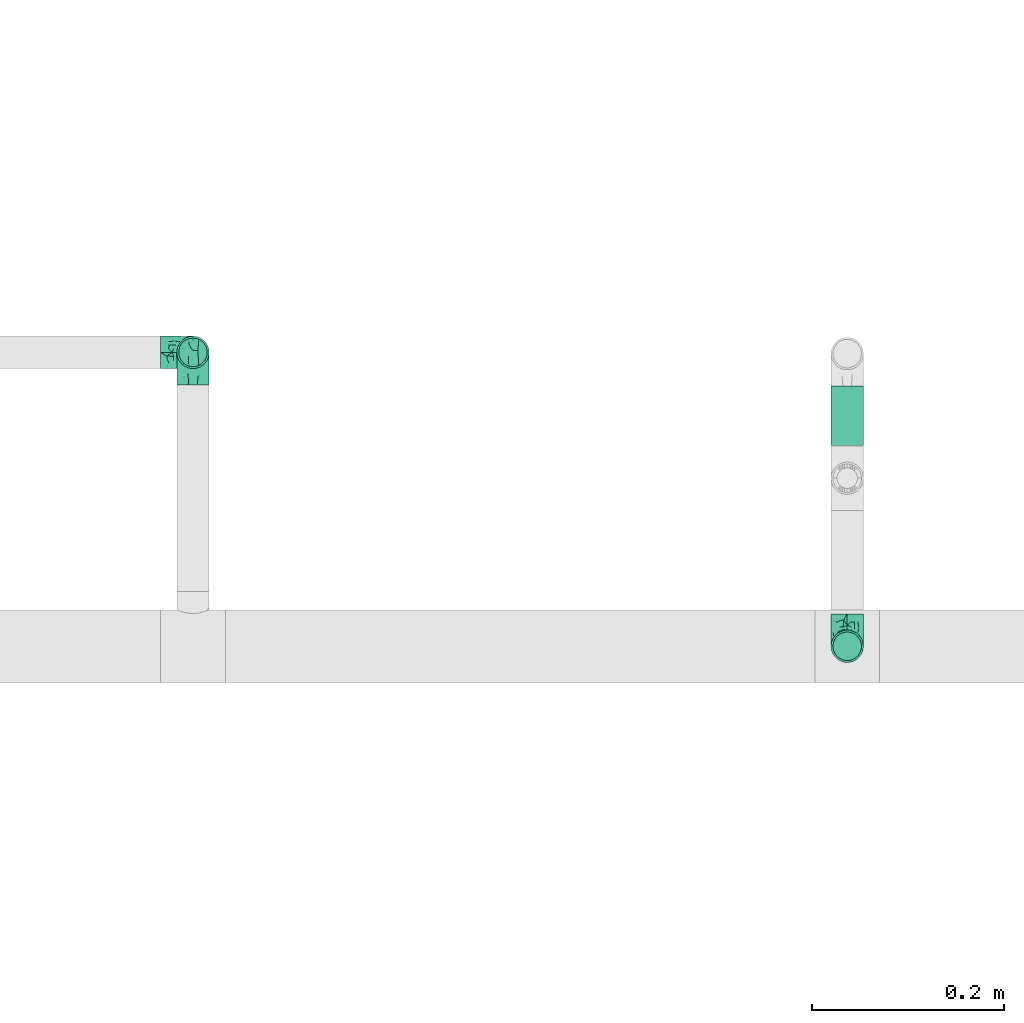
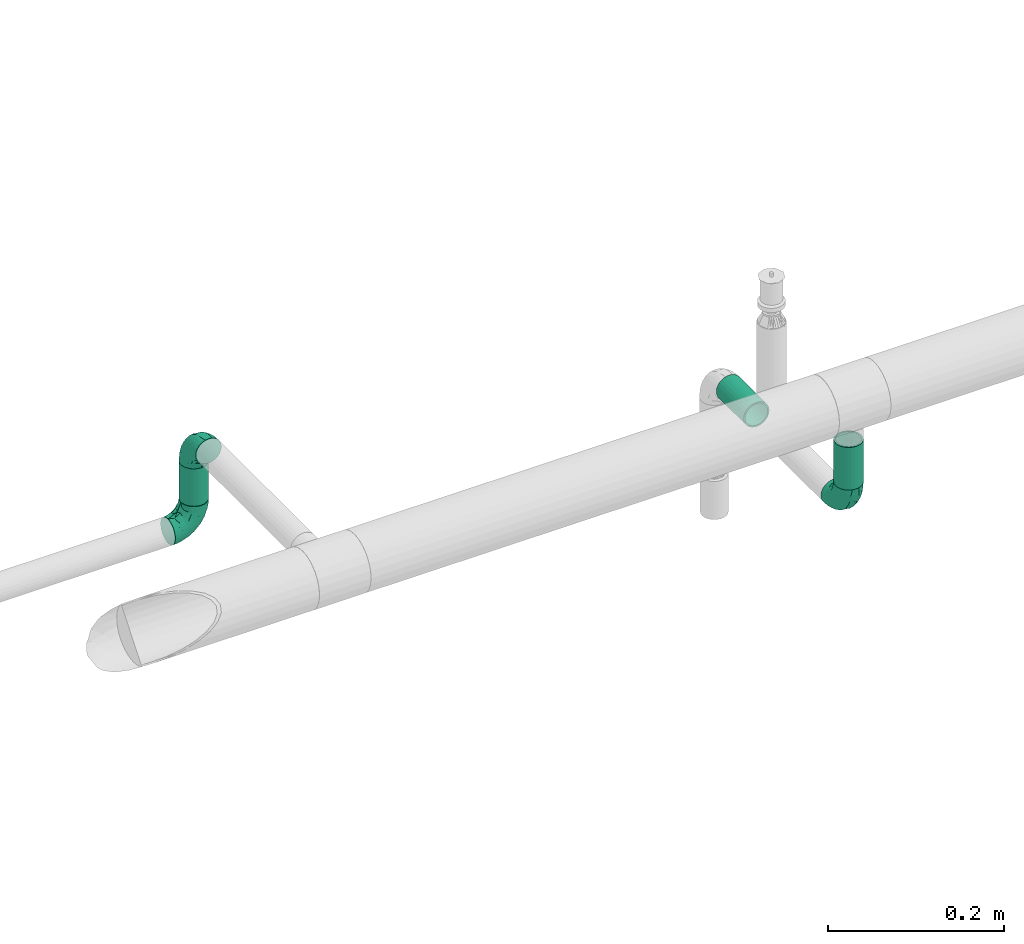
# One storey, part 86 of 157: 3 flow fittings, 3 flow segments.
"""IFC2X3 building model written with IfcOpenShell, lengths in millimetres."""

from ifc_helpers import new_model, entity, si_unit, converted_unit, derived_unit, direction, frame, origin_with_axes, origin_2d_with_axis, place, context, subcontext, project, spatial, hollow_circle, extrude, open_shell, surface_model, source, transform, mapped, type_object, element, save


model = new_model("IFC2X3")

# Units and contexts
model_context = context("Model", 3, precision=0.01, world=frame((0.0, 4.29681676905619e-09, 0.0)), true_north=direction((4.01073788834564e-13, 1.0)))
plan_context = context("Plan", 3, precision=0.01, world=frame((0.0, 4.29681676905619e-09, 0.0)), true_north=direction((4.01073788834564e-13, 1.0)))
body_context = subcontext(model_context, "Body", "Model", "MODEL_VIEW")
ifc_project = project(units=[converted_unit("PLANEANGLEUNIT", "DEGREE", entity("IfcPositiveLengthMeasure", 0.0174532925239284), si_unit("PLANEANGLEUNIT", "RADIAN"), dimensions=[0, 0, 0, 0, 0, 0, 0]), si_unit("AREAUNIT", "SQUARE_METRE"), si_unit("LENGTHUNIT", "METRE", prefix="MILLI"), si_unit("MASSUNIT", "GRAM", prefix="KILO"), si_unit("POWERUNIT", "WATT"), si_unit("PRESSUREUNIT", "PASCAL"), si_unit("FORCEUNIT", "NEWTON", prefix="KILO"), si_unit("ELECTRICCURRENTUNIT", "AMPERE"), si_unit("THERMODYNAMICTEMPERATUREUNIT", "DEGREE_CELSIUS"), si_unit("TIMEUNIT", "SECOND"), si_unit("VOLUMEUNIT", "CUBIC_METRE"), derived_unit("LINEARVELOCITYUNIT", [(si_unit("LENGTHUNIT", "METRE"), 1), (si_unit("TIMEUNIT", "SECOND"), -1)]), derived_unit("VOLUMETRICFLOWRATEUNIT", [(si_unit("VOLUMEUNIT", "CUBIC_METRE"), 1), (si_unit("TIMEUNIT", "SECOND"), -1)]), derived_unit("THERMALTRANSMITTANCEUNIT", [(si_unit("POWERUNIT", "WATT"), 1), (si_unit("THERMODYNAMICTEMPERATUREUNIT", "KELVIN"), -1), (si_unit("AREAUNIT", "SQUARE_METRE"), -1)])], contexts=[model_context, plan_context])

# Site, building, storey
site_placement = place(None, frame((0.0, -4.29681676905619e-09, 0.0), z_axis=(0.0, 0.0, 1.0), x_axis=(1.0, 0.0, 0.0)))
site = spatial("IfcSite", under=ifc_project, at=site_placement, CompositionType="ELEMENT")
building_placement = place(site_placement, frame((0.0, 4.29681676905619e-09, 0.0), z_axis=(0.0, 0.0, 1.0), x_axis=(1.0, 0.0, 0.0)))
building = spatial("IfcBuilding", under=site, at=building_placement, Name="mc-building", CompositionType="ELEMENT")
storey_placement = place(building_placement, frame((0.0, 0.0, 204000.0), z_axis=(0.0, 0.0, 1.0), x_axis=(1.0, 0.0, 0.0)))
storey = spatial("IfcBuildingStorey", under=building, at=storey_placement, Name="Nivå D", CompositionType="ELEMENT", Elevation=204000.0)

# Flow fittings
pipe_fitting_type = type_object("IfcPipeFittingType", Name="magi_pipe_fe_elbow_short_001", PredefinedType="BEND")
shared_shape_1 = source(origin_with_axes(), body_context, "Body", "SurfaceModel", [
    surface_model("IfcShellBasedSurfaceModel", [(-33.8, 8.45, -14.63583), (-33.8, 4.37404, -16.32415), (-33.8, 11.9501, -11.9501), (-33.8, -11.9501, -11.9501), (-33.8, -14.63583, -8.45), (-33.8, -8.45, -14.63583), (-33.8, 0.0, -16.9), (-33.8, -4.37404, -16.32415), (-33.8, -4.37404, 16.32415), (-33.8, 0.0, 16.9), (-33.8, -8.45, 14.63583), (-33.8, 16.32415, -4.37404), (-33.8, 14.63583, -8.45), (-33.8, -16.32415, -4.37404), (-33.8, -16.9, 0.0), (-33.8, -16.32415, 4.37404), (-33.8, 11.9501, 11.9501), (-33.8, 14.63583, 8.45), (-33.8, 16.32415, 4.37404), (-33.8, 4.37404, 16.32415), (-33.8, 8.45, 14.63583), (-33.8, -14.63583, 8.45), (-33.8, -11.9501, 11.9501), (-33.8, 16.9, 0.0), (-11.9501, 33.8, -11.9501), (0.0, 33.8, -16.9), (-4.37404, 33.8, -16.32415), (-8.45, 33.8, -14.63583), (-14.63583, 33.8, -8.45), (-16.32415, 33.8, -4.37404), (14.63583, 33.8, -8.45), (8.45, 33.8, 14.63583), (16.32415, 33.8, -4.37404), (8.45, 33.8, -14.63583), (11.9501, 33.8, -11.9501), (4.37404, 33.8, -16.32415), (16.32415, 33.8, 4.37404), (16.9, 33.8, 0.0), (-11.9501, 33.8, 11.9501), (-16.32415, 33.8, 4.37404), (-14.63583, 33.8, 8.45), (-8.45, 33.8, 14.63583), (-4.37404, 33.8, 16.32415), (11.9501, 33.8, 11.9501), (14.63583, 33.8, 8.45), (0.0, 33.8, 16.9), (4.37404, 33.8, 16.32415), (-16.9, 33.8, 0.0), (-24.79389, -13.12945, 9.48721), (-22.19287, -9.75018, 12.59315), (-24.09897, -14.97035, 0.0), (-14.93934, -10.76256, 8.5297), (-22.46095, -14.75051, 5.27077), (14.75051, 22.46094, 5.27077), (11.9251, 13.23888, 4.33236), (13.04069, 14.39795, 0.0), (7.71387, 13.68847, 11.55891), (9.75018, 22.19287, 12.59315), (4.10169, 13.0571, 14.04018), (-24.84007, -6.39063, 15.2048), (-25.81779, -2.23879, 16.61097), (-23.66549, 2.59054, 16.87119), (-26.50418, 14.06512, 11.08152), (-24.21253, 17.66365, 7.72657), (-29.58514, 15.86957, 7.00283), (-6.17382, -7.5455, 0.0), (-13.23888, -11.9251, 4.33236), (-14.39795, -13.04069, 0.0), (-17.81434, 18.87373, 11.97104), (-6.30846, 29.15138, 15.82987), (-2.31622, 25.28002, 16.85849), (-29.23923, 10.23435, 13.77053), (-1.45439, -2.85688, 7.61475), (-0.28326, 0.34872, 10.09509), (-5.74484, -4.04709, 10.4122), (-4.41137, 11.31918, 16.59407), (-8.39727, 3.10034, 15.7812), (-1.72649, 9.1306, 15.53089), (-17.39909, 24.75344, 7.64977), (-26.19233, 20.0512, 0.0), (-28.14518, 17.29657, 4.25857), (-26.05147, 6.6281, 15.96447), (-5.87354, 16.61944, 16.86968), (-12.51807, 12.51807, 16.48937), (-10.06312, 7.38516, 16.81295), (-3.01882, 3.01882, 13.81718), (-13.0571, -4.10169, 14.04018), (-16.82553, -0.15166, 16.38038), (10.76256, 14.93934, 8.5297), (13.12945, 24.79389, 9.48721), (6.39063, 24.84007, 15.2048), (2.23879, 25.81779, 16.61097), (-13.68847, -7.71387, 11.55891), (14.97035, 24.09897, 0.0), (-7.30894, 22.89991, 16.09489), (-10.67958, 26.17414, 14.008), (-12.78295, 18.26924, 15.06066), (-13.88562, 22.45231, 12.93244), (-18.04944, 15.16501, 14.04434), (-23.11658, 20.08178, 4.02986), (-21.84989, 21.84989, 0.0), (-18.55817, 25.48277, 3.93065), (-13.95142, 26.94732, 11.03289), (-18.57098, 7.23906, 16.59756), (-16.58335, 4.14122, 16.89279), (-17.96666, 11.46709, 15.63151), (-9.84453, 17.54304, 16.18938), (0.15166, 16.82553, 16.38038), (-23.27207, 11.47201, 14.23154), (3.84842, 5.86994, 10.70473), (-8.0212, -7.54413, 7.93275), (1.00345, -2.19508, 4.57414), (5.13203, 3.01004, 5.90201), (5.24161, 1.7543, 2.53265), (8.70457, 7.04947, 3.99182), (-20.0512, 26.19233, 0.0), (8.4852, 8.76699, 7.09296), (-4.55488, -6.72064, 4.90681), (2.05031, -2.05031, 0.0), (7.5455, 6.17382, 0.0), (-26.75399, 2.1369, -16.845), (-14.61995, 24.73803, -11.27736), (-28.45274, -13.45335, -9.81895), (-26.00469, 6.63555, -15.96645), (-23.06726, 20.04573, -4.26202), (-13.80647, -4.26506, -14.17873), (-14.67501, -0.21081, -16.07388), (-6.7902, -0.2828, -13.8478), (-24.53586, 11.08096, -14.13417), (-26.72048, 14.00837, -11.05776), (10.0967, 24.44989, -12.75976), (5.83237, 21.40218, -15.03047), (6.66249, 28.54238, -15.38093), (-20.38182, 15.48705, -12.74596), (12.53268, 21.23441, -9.15363), (12.54494, 15.67504, -5.54878), (9.7522, 12.89279, -8.66343), (-15.65186, 19.64213, -13.01327), (-12.03528, 20.66498, -14.67665), (-15.61907, 15.61906, -14.83879), (-25.56551, -15.26206, 0.0), (-24.65452, -15.12934, -5.50955), (13.45335, 28.45274, -9.81895), (15.12934, 24.65452, -5.50955), (-7.35442, -8.31014, -5.65563), (-15.67504, -12.54494, -5.54878), (-24.44989, -10.0967, -12.75976), (0.16522, 0.41303, -9.71728), (-5.70658, -5.33066, -8.89288), (-5.13869, -2.37198, -11.53565), (-21.23441, -12.53268, -9.15363), (0.71146, 7.93863, -14.09382), (0.21081, 14.67501, -16.07388), (3.49291, 14.42772, -14.76381), (-24.89911, -2.13088, -16.591), (-28.54238, -6.66249, -15.38093), (-18.44386, -7.71663, -13.26957), (2.13088, 24.89911, -16.591), (-28.64342, 17.44413, -2.89318), (1.70017, -1.28722, -5.09504), (-16.57067, 26.81947, -7.36596), (-17.69055, 27.4263, -3.76405), (-12.89279, -9.7522, -8.66343), (-5.96611, 5.96611, -15.95814), (-20.53709, 20.09345, -8.28985), (-2.1369, 26.75399, -16.845), (-6.89872, 24.58781, -16.02578), (-10.60739, 26.53157, -13.98044), (-21.40218, -5.83237, -15.03047), (2.93192, 5.89627, -11.55917), (6.89393, 12.61842, -11.82233), (5.58056, 5.95325, -8.79455), (-3.99512, 18.61798, -16.89635), (8.31014, 7.35442, -5.65563), (-9.1383, 9.86148, -16.89041), (-9.99983, 16.02119, -16.39699), (-16.68576, 9.78031, -16.34199), (-27.01915, 16.61158, -7.12979), (15.26206, 25.56551, 0.0), (-18.61798, 3.99512, -16.89635), (-19.37495, 27.82495, 0.0), (-12.61842, -6.89393, -11.82233), (-18.84705, 19.14018, -10.96545)], [open_shell([[[0, 1, 2]], [[3, 4, 5]], [[6, 7, 5]], [[8, 9, 10]], [[1, 6, 2]], [[11, 12, 2]], [[4, 2, 6]], [[2, 13, 10]], [[5, 4, 6]], [[2, 4, 13]], [[14, 15, 13]], [[11, 2, 16]], [[11, 17, 18]], [[11, 16, 17]], [[19, 20, 16]], [[16, 2, 10]], [[19, 16, 10]], [[21, 22, 15]], [[22, 13, 15]], [[22, 10, 13]], [[10, 9, 19]], [[11, 18, 23]], [[24, 25, 26]], [[24, 26, 27]], [[24, 28, 29]], [[25, 24, 30]], [[31, 32, 24]], [[33, 30, 34]], [[33, 35, 25]], [[25, 30, 33]], [[32, 30, 24]], [[32, 36, 37]], [[38, 24, 29]], [[39, 40, 29]], [[40, 38, 29]], [[38, 41, 42]], [[38, 31, 24]], [[31, 38, 42]], [[36, 43, 44]], [[36, 32, 43]], [[31, 45, 46]], [[32, 31, 43]], [[42, 45, 31]], [[39, 29, 47]], [[22, 48, 49]], [[15, 14, 50]], [[51, 48, 52]], [[53, 54, 55]], [[48, 22, 21]], [[15, 52, 21]], [[56, 57, 58]], [[49, 10, 22]], [[49, 59, 10]], [[9, 60, 61]], [[62, 63, 64]], [[65, 66, 67]], [[57, 43, 31]], [[62, 68, 63]], [[42, 69, 70]], [[20, 71, 16]], [[8, 60, 9]], [[72, 73, 74]], [[75, 76, 77]], [[16, 62, 17]], [[40, 39, 78]], [[79, 23, 80]], [[64, 18, 17]], [[9, 61, 19]], [[19, 81, 20]], [[82, 83, 84]], [[74, 85, 86]], [[59, 86, 87]], [[88, 89, 57]], [[90, 31, 46]], [[44, 53, 36]], [[46, 45, 91]], [[54, 53, 88]], [[44, 89, 53]], [[92, 86, 49]], [[89, 44, 43]], [[10, 59, 8]], [[53, 55, 93]], [[93, 36, 53]], [[66, 52, 67]], [[94, 82, 70]], [[95, 96, 94]], [[97, 98, 96]], [[79, 99, 100]], [[41, 38, 95]], [[101, 100, 99]], [[68, 78, 63]], [[42, 41, 69]], [[23, 18, 80]], [[95, 94, 69]], [[78, 101, 99]], [[38, 102, 95]], [[70, 45, 42]], [[97, 95, 102]], [[15, 50, 52]], [[90, 57, 31]], [[57, 90, 58]], [[81, 19, 61]], [[103, 104, 84]], [[105, 81, 103]], [[38, 40, 102]], [[106, 96, 83]], [[94, 106, 82]], [[91, 70, 107]], [[71, 62, 16]], [[62, 108, 98]], [[86, 59, 49]], [[67, 52, 50]], [[60, 59, 87]], [[92, 49, 51]], [[86, 85, 76]], [[91, 90, 46]], [[37, 36, 93]], [[107, 77, 58]], [[107, 58, 90]], [[58, 85, 109]], [[110, 74, 92]], [[72, 74, 110]], [[66, 51, 52]], [[72, 111, 112]], [[113, 114, 112]], [[56, 88, 57]], [[52, 48, 21]], [[49, 48, 51]], [[57, 89, 43]], [[53, 89, 88]], [[103, 81, 61]], [[71, 81, 108]], [[18, 64, 80]], [[63, 78, 99]], [[47, 115, 101]], [[101, 115, 100]], [[40, 78, 102]], [[68, 102, 78]], [[97, 96, 95]], [[105, 98, 108]], [[103, 84, 83]], [[107, 70, 82]], [[76, 84, 87]], [[82, 84, 75]], [[70, 91, 45]], [[90, 91, 107]], [[59, 60, 8]], [[61, 60, 87]], [[73, 85, 74]], [[109, 112, 116]], [[103, 61, 104]], [[105, 103, 83]], [[96, 105, 83]], [[81, 105, 108]], [[96, 98, 105]], [[62, 98, 68]], [[61, 87, 104]], [[87, 84, 104]], [[86, 76, 87]], [[77, 76, 85]], [[58, 77, 85]], [[75, 77, 107]], [[82, 75, 107]], [[76, 75, 84]], [[81, 71, 20]], [[62, 71, 108]], [[95, 69, 41]], [[70, 69, 94]], [[62, 64, 17]], [[80, 63, 99]], [[63, 80, 64]], [[80, 99, 79]], [[66, 65, 117]], [[110, 66, 117]], [[112, 114, 116]], [[118, 117, 65]], [[110, 92, 51]], [[112, 111, 113]], [[119, 55, 54]], [[74, 86, 92]], [[58, 109, 56]], [[116, 56, 109]], [[66, 110, 51]], [[72, 110, 117]], [[111, 72, 117]], [[73, 112, 109]], [[117, 118, 111]], [[113, 111, 118]], [[118, 119, 113]], [[114, 119, 54]], [[119, 114, 113]], [[116, 54, 88]], [[54, 116, 114]], [[116, 88, 56]], [[112, 73, 72]], [[85, 73, 109]], [[78, 39, 101]], [[47, 101, 39]], [[102, 68, 97]], [[97, 68, 98]], [[82, 106, 83]], [[94, 96, 106]], [[1, 120, 6]], [[28, 24, 121]], [[3, 122, 4]], [[0, 123, 1]], [[100, 124, 79]], [[125, 126, 127]], [[128, 2, 129]], [[130, 131, 132]], [[128, 129, 133]], [[134, 135, 136]], [[137, 138, 139]], [[128, 0, 2]], [[67, 140, 141]], [[134, 142, 143]], [[141, 13, 4]], [[144, 65, 145]], [[146, 3, 5]], [[147, 148, 149]], [[145, 141, 150]], [[151, 152, 153]], [[154, 7, 6]], [[5, 155, 146]], [[150, 146, 156]], [[155, 5, 7]], [[143, 135, 134]], [[35, 157, 25]], [[23, 79, 158]], [[148, 159, 144]], [[160, 161, 29]], [[145, 162, 144]], [[163, 152, 151]], [[29, 28, 160]], [[121, 164, 160]], [[33, 34, 130]], [[25, 165, 26]], [[26, 165, 166]], [[142, 34, 30]], [[24, 27, 167]], [[124, 161, 164]], [[157, 35, 132]], [[155, 154, 168]], [[123, 0, 128]], [[169, 170, 171]], [[172, 157, 152]], [[26, 166, 27]], [[132, 35, 33]], [[142, 130, 34]], [[168, 154, 126]], [[136, 135, 173]], [[133, 137, 139]], [[2, 12, 129]], [[170, 131, 130]], [[30, 32, 143]], [[172, 174, 175]], [[176, 123, 128]], [[158, 177, 11]], [[135, 55, 119]], [[167, 27, 166]], [[175, 166, 172]], [[137, 167, 138]], [[122, 141, 4]], [[140, 14, 13]], [[32, 37, 178]], [[170, 130, 134]], [[152, 157, 131]], [[165, 157, 172]], [[153, 170, 151]], [[152, 163, 174]], [[168, 125, 156]], [[122, 146, 150]], [[120, 154, 6]], [[179, 174, 126]], [[179, 126, 154]], [[126, 163, 127]], [[162, 145, 150]], [[140, 13, 141]], [[32, 178, 143]], [[55, 143, 178]], [[177, 129, 12]], [[128, 133, 139]], [[176, 128, 139]], [[120, 123, 179]], [[121, 160, 28]], [[161, 100, 180]], [[166, 175, 138]], [[121, 24, 167]], [[161, 47, 29]], [[79, 124, 158]], [[124, 164, 177]], [[161, 124, 100]], [[136, 171, 170]], [[127, 163, 151]], [[147, 171, 159]], [[148, 144, 162]], [[127, 151, 169]], [[127, 181, 125]], [[129, 177, 164]], [[12, 11, 177]], [[159, 65, 144]], [[67, 141, 145]], [[143, 55, 135]], [[135, 119, 173]], [[123, 120, 1]], [[154, 120, 179]], [[157, 165, 25]], [[166, 165, 172]], [[172, 152, 174]], [[176, 139, 175]], [[126, 174, 163]], [[176, 174, 179]], [[174, 176, 175]], [[123, 176, 179]], [[150, 181, 162]], [[127, 149, 181]], [[181, 148, 162]], [[159, 148, 147]], [[171, 136, 173]], [[170, 134, 136]], [[159, 171, 173]], [[171, 147, 169]], [[169, 147, 149]], [[151, 170, 169]], [[164, 182, 129]], [[182, 121, 137]], [[181, 149, 148]], [[169, 149, 127]], [[182, 137, 133]], [[167, 137, 121]], [[166, 138, 167]], [[175, 139, 138]], [[129, 182, 133]], [[121, 182, 164]], [[161, 160, 164]], [[47, 161, 180]], [[177, 158, 124]], [[23, 158, 11]], [[130, 132, 33]], [[157, 132, 131]], [[143, 142, 30]], [[130, 142, 134]], [[154, 155, 7]], [[146, 155, 168]], [[146, 122, 3]], [[141, 122, 150]], [[152, 131, 153]], [[159, 119, 118]], [[67, 145, 65]], [[170, 153, 131]], [[119, 159, 173]], [[159, 118, 65]], [[156, 125, 181]], [[126, 125, 168]], [[150, 156, 181]], [[168, 156, 146]]])]),
])
for number, where, z_axis, x_axis, name in (
    (1, (521500.0, 416294.70476, 2540.0), (1.0, 0.0, 0.0), (0.0, 0.0, -1.0), "magi_pipe_fe_elbow_short_001"),
    (2, (520817.55946, 416601.26648, 2690.0), (-1.0, 0.0, 0.0), (0.0, 1.0, 0.0), "magi_pipe_fe_elbow_short_001"),
    (3, (520817.55946, 416601.26648, 2570.0), (0.0, 1.0, 0.0), (0.0, 0.0, -1.0), "magi_pipe_fe_elbow_short_001"),
):
    element("IfcFlowFitting", number, at=place(storey_placement, frame(where, z_axis=z_axis, x_axis=x_axis)), inside=storey, type_object=pipe_fitting_type, Name=name, context=body_context, shape_type="MappedRepresentation", body=[
        mapped(shared_shape_1, transform((0.0, 0.0, 0.0), scale=1.0)),
    ])

# Flow segments
pipe_segment_type = type_object("IfcPipeSegmentType", Name="Stålrør normaltykke", PredefinedType="RIGIDSEGMENT")
shared_shape_2 = source(origin_with_axes(), body_context, "Body", "SweptSolid", [
    extrude(hollow_circle(Radius=16.9, WallThickness=2.0, at=origin_2d_with_axis()), frame((0.0, 0.0, 0.0), z_axis=(1.0, 0.0, 0.0), x_axis=(0.0, 1.0, 0.0)), (0.0, 0.0, 1.0), 51.8),
])
flow_segment_1_placement = place(storey_placement, frame((520817.55946, 416601.26648, 2656.20000000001), z_axis=(-1.0, 0.0, 0.0), x_axis=(0.0, 0.0, -1.0)))
element("IfcFlowSegment", 4, at=flow_segment_1_placement, inside=storey, type_object=pipe_segment_type, Name="Stålrør normaltykke", context=body_context, shape_type="MappedRepresentation", body=[
    mapped(shared_shape_2, transform((0.0, 0.0, 0.0), scale=1.0)),
])
shared_shape_3 = source(origin_with_axes(), body_context, "Body", "SweptSolid", [
    extrude(hollow_circle(Radius=16.9, WallThickness=2.0, at=origin_2d_with_axis()), frame((0.0, 0.0, 0.0), z_axis=(1.0, 0.0, 0.0), x_axis=(0.0, 1.0, 0.0)), (0.0, 0.0, 1.0), 62.1),
])
flow_segment_2_placement = place(storey_placement, frame((521500.0, 416566.20001, 2540.0), z_axis=(0.0, 0.0, 1.0), x_axis=(0.0, -1.0, 0.0)))
element("IfcFlowSegment", 5, at=flow_segment_2_placement, inside=storey, type_object=pipe_segment_type, Name="Stålrør normaltykke", context=body_context, shape_type="MappedRepresentation", body=[
    mapped(shared_shape_3, transform((0.0, 0.0, 0.0), scale=1.0)),
])
shared_shape_4 = source(origin_with_axes(), body_context, "Body", "SweptSolid", [
    extrude(hollow_circle(Radius=16.9, WallThickness=2.0, at=origin_2d_with_axis()), frame((0.0, 0.0, 0.0), z_axis=(1.0, 0.0, 0.0), x_axis=(0.0, 1.0, 0.0)), (0.0, 0.0, 1.0), 59.0),
])
flow_segment_3_placement = place(storey_placement, frame((521500.0, 416294.70476, 2632.85000000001), z_axis=(0.0, 1.0, 0.0), x_axis=(0.0, 0.0, -1.0)))
element("IfcFlowSegment", 6, at=flow_segment_3_placement, inside=storey, type_object=pipe_segment_type, Name="Stålrør normaltykke", context=body_context, shape_type="MappedRepresentation", body=[
    mapped(shared_shape_4, transform((0.0, 0.0, 0.0), scale=1.0)),
])

save(model, "model.ifc")
